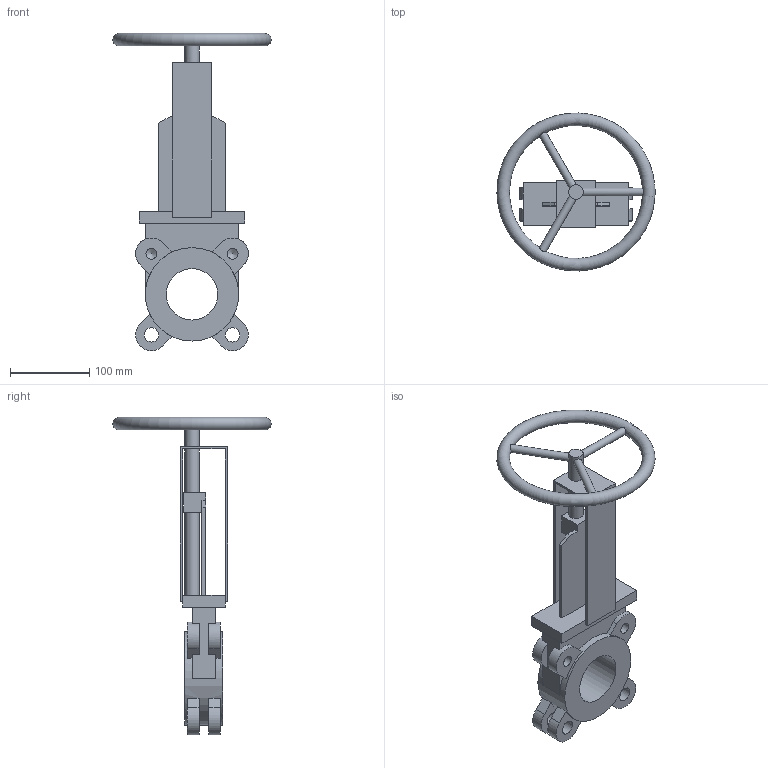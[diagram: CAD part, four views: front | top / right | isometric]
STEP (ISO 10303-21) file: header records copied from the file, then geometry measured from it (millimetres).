
FILE_DESCRIPTION(('STEP AP203'), '1');
FILE_NAME('Çàäâèæêà øèáåðíàÿ ìåæôëàíöåâàÿ K21GV DN65', '', ('UNSPECIFIED'), ('UNSPECIFIED'), 'ASCON STEP Converter 1.6', 'ASCON Math Kernel', '');
FILE_SCHEMA(('CONFIG_CONTROL_DESIGN'));
Length unit declared in the file: millimetre
Bounding box: 199.95 x 199.81 x 401.19 mm (x, y, z)
Volume: 1039422.1 mm3; surface area: 206866.9 mm2
Topology: 1 solids, 1 shells, 101 faces, 276 edges, 181 vertices
Faces by surface type: plane 72, cylinder 24, cone 4, torus 1
Full cylindrical faces by diameter (mm): 10 x3, 13.835 x4, 18 x7, 65 x1, 118 x1
Entity records: 5084 total; most frequent: CARTESIAN_POINT 1716, DIRECTION 510, ORIENTED_EDGE 496, EDGE_CURVE 248, VERTEX_POINT 176, LINE 174, VECTOR 174, AXIS2_PLACEMENT_3D 168
